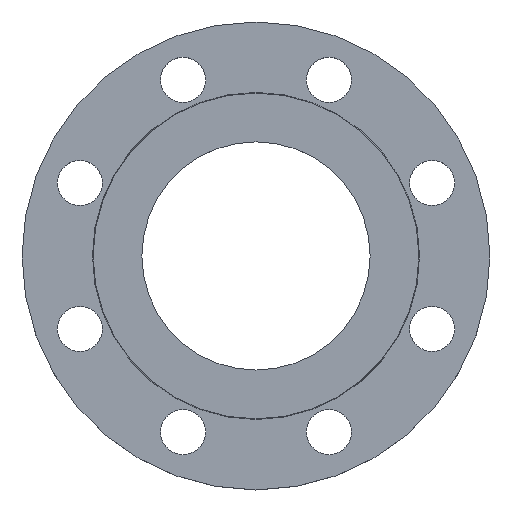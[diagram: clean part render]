
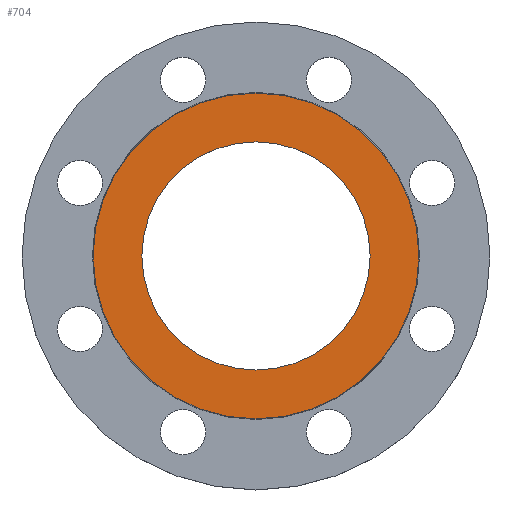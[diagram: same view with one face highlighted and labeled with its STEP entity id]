
A CAD part, top view. The second image highlights one B-rep face of the part: STEP entity #704.
In plain terms, the highlighted planar face has unit normal (0, 0, 1).
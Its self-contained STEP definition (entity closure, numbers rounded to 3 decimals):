
#36 = AXIS2_PLACEMENT_3D ( 'NONE', #388, #683, #966 ) ;
#45 = CARTESIAN_POINT ( 'NONE',  ( 94., 0., 0. ) ) ;
#55 = CIRCLE ( 'NONE', #606, 65.85 ) ;
#58 = CIRCLE ( 'NONE', #607, 94. ) ;
#89 = ORIENTED_EDGE ( 'NONE', *, *, #395, .F. ) ;
#107 = EDGE_LOOP ( 'NONE', ( #624, #89 ) ) ;
#110 = DIRECTION ( 'NONE',  ( 0., 0., 1. ) ) ;
#127 = DIRECTION ( 'NONE',  ( -1., 0., 0. ) ) ;
#137 = CIRCLE ( 'NONE', #688, 94. ) ;
#185 = CARTESIAN_POINT ( 'NONE',  ( -65.85, 0., 0. ) ) ;
#187 = FACE_OUTER_BOUND ( 'NONE', #862, .T. ) ;
#244 = DIRECTION ( 'NONE',  ( 0., 0., -1. ) ) ;
#255 = VERTEX_POINT ( 'NONE', #185 ) ;
#301 = DIRECTION ( 'NONE',  ( 1., 0., 0. ) ) ;
#332 = VERTEX_POINT ( 'NONE', #45 ) ;
#350 = ORIENTED_EDGE ( 'NONE', *, *, #782, .F. ) ;
#388 = CARTESIAN_POINT ( 'NONE',  ( 0., 0., 0. ) ) ;
#395 = EDGE_CURVE ( 'NONE', #255, #428, #55, .T. ) ;
#420 = DIRECTION ( 'NONE',  ( 1., 0., 0. ) ) ;
#428 = VERTEX_POINT ( 'NONE', #730 ) ;
#468 = CIRCLE ( 'NONE', #36, 65.85 ) ;
#487 = ORIENTED_EDGE ( 'NONE', *, *, #649, .F. ) ;
#492 = PLANE ( 'NONE',  #666 ) ;
#511 = CARTESIAN_POINT ( 'NONE',  ( 0., 0., 0. ) ) ;
#546 = DIRECTION ( 'NONE',  ( -1., 0., 0. ) ) ;
#606 = AXIS2_PLACEMENT_3D ( 'NONE', #672, #958, #301 ) ;
#607 = AXIS2_PLACEMENT_3D ( 'NONE', #911, #244, #546 ) ;
#624 = ORIENTED_EDGE ( 'NONE', *, *, #830, .F. ) ;
#649 = EDGE_CURVE ( 'NONE', #922, #332, #58, .T. ) ;
#666 = AXIS2_PLACEMENT_3D ( 'NONE', #787, #110, #420 ) ;
#672 = CARTESIAN_POINT ( 'NONE',  ( 0., 0., 0. ) ) ;
#683 = DIRECTION ( 'NONE',  ( 0., 0., 1. ) ) ;
#688 = AXIS2_PLACEMENT_3D ( 'NONE', #511, #805, #127 ) ;
#704 = ADVANCED_FACE ( 'NONE', ( #859, #187 ), #492, .T. ) ;
#730 = CARTESIAN_POINT ( 'NONE',  ( 65.85, 0., 0. ) ) ;
#782 = EDGE_CURVE ( 'NONE', #332, #922, #137, .T. ) ;
#787 = CARTESIAN_POINT ( 'NONE',  ( 0., 0., 0. ) ) ;
#805 = DIRECTION ( 'NONE',  ( 0., 0., -1. ) ) ;
#830 = EDGE_CURVE ( 'NONE', #428, #255, #468, .T. ) ;
#832 = CARTESIAN_POINT ( 'NONE',  ( -94., 0., 0. ) ) ;
#859 = FACE_BOUND ( 'NONE', #107, .T. ) ;
#862 = EDGE_LOOP ( 'NONE', ( #487, #350 ) ) ;
#911 = CARTESIAN_POINT ( 'NONE',  ( 0., 0., 0. ) ) ;
#922 = VERTEX_POINT ( 'NONE', #832 ) ;
#958 = DIRECTION ( 'NONE',  ( 0., 0., 1. ) ) ;
#966 = DIRECTION ( 'NONE',  ( 1., 0., 0. ) ) ;
